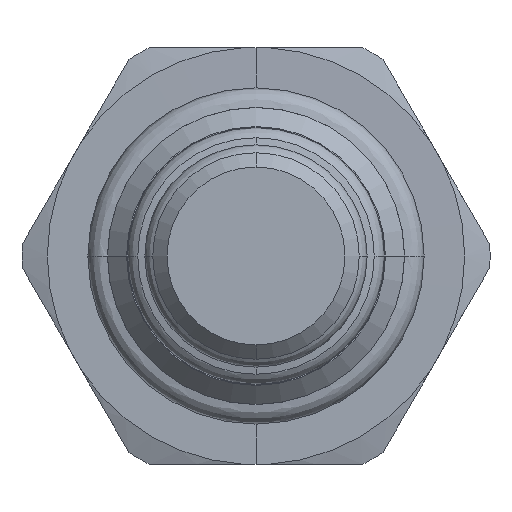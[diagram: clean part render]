
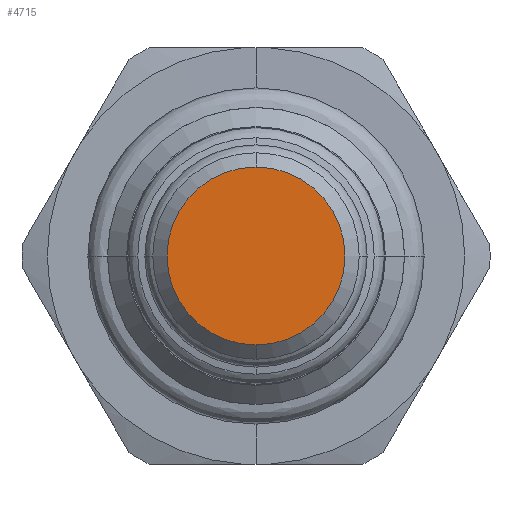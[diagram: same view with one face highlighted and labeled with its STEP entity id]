
A CAD part, front view. The second image highlights one B-rep face of the part: STEP entity #4715.
In plain terms, the highlighted planar face has unit normal (0, -1, 0).
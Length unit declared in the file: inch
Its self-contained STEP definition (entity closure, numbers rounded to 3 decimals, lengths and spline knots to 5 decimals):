
#1804=CARTESIAN_POINT('',(0.,-1.41473,0.));
#1805=DIRECTION('',(0.,-1.,0.));
#1806=DIRECTION('',(0.,0.,1.));
#1807=AXIS2_PLACEMENT_3D('',#1804,#1805,#1806);
#1822=CARTESIAN_POINT('',(0.,-1.41473,0.));
#1823=DIRECTION('',(0.,-1.,0.));
#1824=DIRECTION('',(0.,0.,-1.));
#1825=AXIS2_PLACEMENT_3D('',#1822,#1823,#1824);
#1951=CARTESIAN_POINT('',(0.,-1.41473,-0.1865));
#1952=CARTESIAN_POINT('',(0.,-1.41473,0.1865));
#1953=VERTEX_POINT('',#1951);
#1954=VERTEX_POINT('',#1952);
#4705=CARTESIAN_POINT('',(0.,-1.41473,0.));
#4706=DIRECTION('',(0.,1.,0.));
#4707=DIRECTION('',(0.,0.,-1.));
#4708=AXIS2_PLACEMENT_3D('',#4705,#4706,#4707);
#4709=PLANE('',#4708);
#4710=ORIENTED_EDGE('',*,*,#4695,.F.);
#4712=ORIENTED_EDGE('',*,*,#4711,.F.);
#4713=EDGE_LOOP('',(#4710,#4712));
#4714=FACE_OUTER_BOUND('',#4713,.F.);
#4715=ADVANCED_FACE('',(#4714),#4709,.F.);
#1808=CIRCLE('',#1807,0.1865);
#1826=CIRCLE('',#1825,0.1865);
#4695=EDGE_CURVE('',#1954,#1953,#1808,.T.);
#4711=EDGE_CURVE('',#1953,#1954,#1826,.T.);
